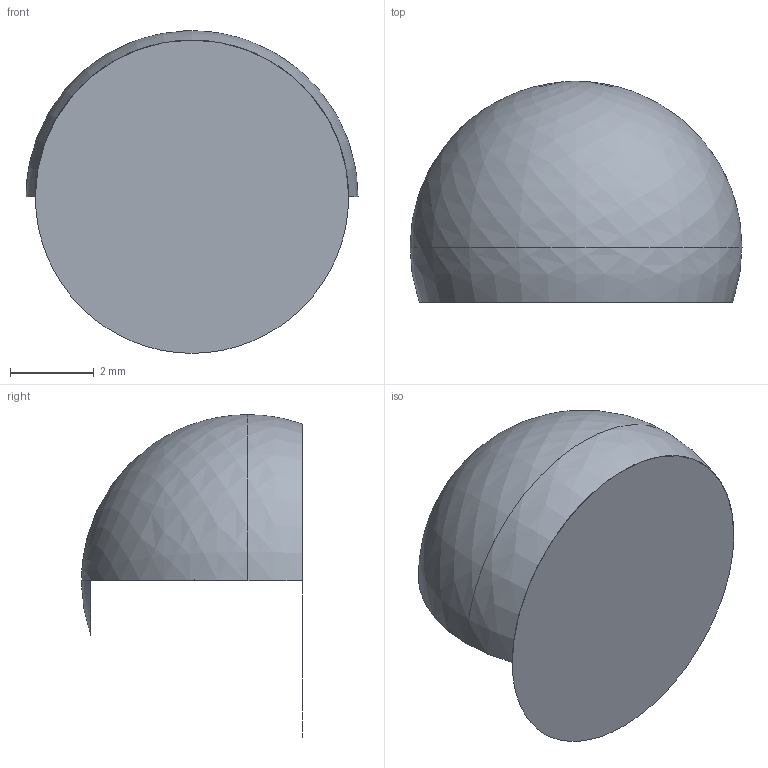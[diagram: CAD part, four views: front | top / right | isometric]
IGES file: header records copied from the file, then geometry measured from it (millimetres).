
Start section: SolidWorks IGES file using analytic representation for surfaces
Global section: file name: D:\Solid_parts\MECHeDESIGN\Bal-Tec\Catalog 105-A\Distribution\IGES\312-TB.IGS; native system: SolidWorks 2005 by SolidWorks Corporation; preprocessor: SolidWorks 2005 by SolidWorks Corporation; author: rvillegas; date: 061205.185357; units: inch
Bounding box: 7.94 x 5.28 x 7.71 mm (x, y, z)
Surface area: 162.3 mm2 (no closed solid volume)
Topology: 0 solids, 0 shells, 3 faces, 40 edges, 39 vertices
Faces by surface type: revolution 2, bspline 1
